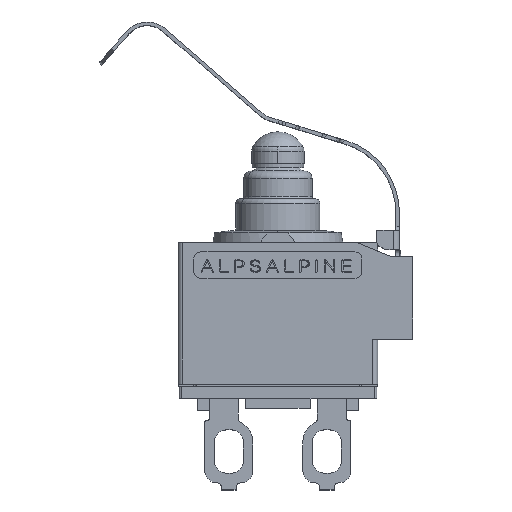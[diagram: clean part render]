
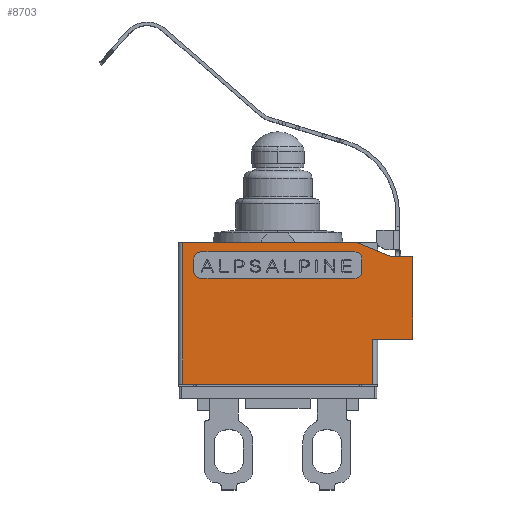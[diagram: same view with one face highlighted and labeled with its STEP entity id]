
A CAD part, top view. The second image highlights one B-rep face of the part: STEP entity #8703.
In plain terms, the highlighted planar face has unit normal (0, 0, 1).
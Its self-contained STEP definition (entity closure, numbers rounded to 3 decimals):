
#114 = EDGE_CURVE ( 'NONE', #20779, #18169, #19206, .T. ) ;
#753 = DIRECTION ( 'NONE',  ( 0., 0., 1. ) ) ;
#857 = EDGE_CURVE ( 'NONE', #18729, #19294, #24965, .T. ) ;
#1432 = DIRECTION ( 'NONE',  ( 0.927, -0.376, 0. ) ) ;
#1776 = DIRECTION ( 'NONE',  ( 0., 0., -1. ) ) ;
#2029 = DIRECTION ( 'NONE',  ( -1., 0., 0. ) ) ;
#2039 = CARTESIAN_POINT ( 'NONE',  ( 3.712, 1.975, 2.65 ) ) ;
#2324 = CIRCLE ( 'NONE', #15535, 0.3 ) ;
#2609 = VECTOR ( 'NONE', #10752, 1000. ) ;
#2673 = VECTOR ( 'NONE', #24500, 1000. ) ;
#2869 = CARTESIAN_POINT ( 'NONE',  ( -5.108, 4.5, 2.65 ) ) ;
#2929 = CARTESIAN_POINT ( 'NONE',  ( 1.592, 5.3, 2.65 ) ) ;
#3407 = AXIS2_PLACEMENT_3D ( 'NONE', #8869, #753, #18466 ) ;
#3445 = EDGE_CURVE ( 'NONE', #19294, #13709, #20224, .T. ) ;
#3448 = VECTOR ( 'NONE', #24776, 1000. ) ;
#4122 = ORIENTED_EDGE ( 'NONE', *, *, #4655, .F. ) ;
#4179 = DIRECTION ( 'NONE',  ( -1., 0., 0. ) ) ;
#4194 = CARTESIAN_POINT ( 'NONE',  ( -6.133, 5.4, 2.65 ) ) ;
#4554 = CARTESIAN_POINT ( 'NONE',  ( 1.292, 5.6, 2.65 ) ) ;
#4655 = EDGE_CURVE ( 'NONE', #8205, #18169, #14508, .T. ) ;
#5278 = EDGE_CURVE ( 'NONE', #8205, #13750, #8075, .T. ) ;
#5336 = CARTESIAN_POINT ( 'NONE',  ( 1.292, 4.8, 2.65 ) ) ;
#5346 = CARTESIAN_POINT ( 'NONE',  ( -5.408, 5.3, 2.65 ) ) ;
#5922 = ORIENTED_EDGE ( 'NONE', *, *, #3445, .T. ) ;
#5979 = VERTEX_POINT ( 'NONE', #12130 ) ;
#6145 = DIRECTION ( 'NONE',  ( 0., 1., 0. ) ) ;
#6272 = ORIENTED_EDGE ( 'NONE', *, *, #10166, .F. ) ;
#6481 = EDGE_CURVE ( 'NONE', #21273, #20779, #15233, .T. ) ;
#6682 = CARTESIAN_POINT ( 'NONE',  ( 3.002, 1.975, 2.65 ) ) ;
#6823 = EDGE_CURVE ( 'NONE', #8384, #23643, #24606, .T. ) ;
#7054 = CIRCLE ( 'NONE', #17427, 0.3 ) ;
#7443 = LINE ( 'NONE', #11200, #9270 ) ;
#7493 = CARTESIAN_POINT ( 'NONE',  ( -5.857, 0.1, 2.65 ) ) ;
#7578 = EDGE_CURVE ( 'NONE', #19035, #22443, #18754, .T. ) ;
#7823 = VECTOR ( 'NONE', #6145, 1000. ) ;
#8075 = LINE ( 'NONE', #9512, #7823 ) ;
#8205 = VERTEX_POINT ( 'NONE', #23157 ) ;
#8280 = CIRCLE ( 'NONE', #3407, 0.3 ) ;
#8281 = EDGE_LOOP ( 'NONE', ( #10950, #10070, #5922, #21100, #14490, #10627, #4122, #21879 ) ) ;
#8384 = VERTEX_POINT ( 'NONE', #4554 ) ;
#8703 = ADVANCED_FACE ( 'NONE', ( #11373, #13855 ), #11694, .F. ) ;
#8869 = CARTESIAN_POINT ( 'NONE',  ( -5.108, 5.3, 2.65 ) ) ;
#9270 = VECTOR ( 'NONE', #1432, 1000. ) ;
#9345 = CARTESIAN_POINT ( 'NONE',  ( -5.858, 5.4, 2.65 ) ) ;
#9512 = CARTESIAN_POINT ( 'NONE',  ( 2.042, 5.4, 2.65 ) ) ;
#9652 = EDGE_CURVE ( 'NONE', #23643, #20200, #8280, .T. ) ;
#10070 = ORIENTED_EDGE ( 'NONE', *, *, #857, .T. ) ;
#10166 = EDGE_CURVE ( 'NONE', #20200, #5979, #23398, .T. ) ;
#10340 = CARTESIAN_POINT ( 'NONE',  ( 3.712, 5.4, 2.65 ) ) ;
#10450 = DIRECTION ( 'NONE',  ( 1., 0., 0. ) ) ;
#10619 = CARTESIAN_POINT ( 'NONE',  ( 1.292, 5.3, 2.65 ) ) ;
#10627 = ORIENTED_EDGE ( 'NONE', *, *, #114, .T. ) ;
#10644 = CARTESIAN_POINT ( 'NONE',  ( -5.108, 4.8, 2.65 ) ) ;
#10752 = DIRECTION ( 'NONE',  ( 0., 1., 0. ) ) ;
#10755 = DIRECTION ( 'NONE',  ( 0., 0., 1. ) ) ;
#10950 = ORIENTED_EDGE ( 'NONE', *, *, #12534, .T. ) ;
#10993 = VERTEX_POINT ( 'NONE', #12376 ) ;
#11111 = DIRECTION ( 'NONE',  ( 0., 0., 1. ) ) ;
#11200 = CARTESIAN_POINT ( 'NONE',  ( 1.342, 6., 2.65 ) ) ;
#11247 = CARTESIAN_POINT ( 'NONE',  ( -5.858, 6., 2.65 ) ) ;
#11373 = FACE_BOUND ( 'NONE', #24280, .T. ) ;
#11694 = PLANE ( 'NONE',  #23192 ) ;
#11870 = CARTESIAN_POINT ( 'NONE',  ( 3.712, 5.4, 2.65 ) ) ;
#12130 = CARTESIAN_POINT ( 'NONE',  ( -5.408, 4.8, 2.65 ) ) ;
#12376 = CARTESIAN_POINT ( 'NONE',  ( -5.108, 4.5, 2.65 ) ) ;
#12534 = EDGE_CURVE ( 'NONE', #13750, #18729, #14733, .T. ) ;
#12632 = EDGE_CURVE ( 'NONE', #21273, #13709, #7443, .T. ) ;
#13011 = VERTEX_POINT ( 'NONE', #19986 ) ;
#13340 = DIRECTION ( 'NONE',  ( 1., 0., 0. ) ) ;
#13357 = ORIENTED_EDGE ( 'NONE', *, *, #23210, .F. ) ;
#13709 = VERTEX_POINT ( 'NONE', #21739 ) ;
#13750 = VERTEX_POINT ( 'NONE', #15820 ) ;
#13855 = FACE_OUTER_BOUND ( 'NONE', #8281, .T. ) ;
#14045 = ORIENTED_EDGE ( 'NONE', *, *, #24598, .F. ) ;
#14331 = EDGE_CURVE ( 'NONE', #22443, #8384, #2324, .T. ) ;
#14490 = ORIENTED_EDGE ( 'NONE', *, *, #6481, .T. ) ;
#14508 = LINE ( 'NONE', #21868, #24322 ) ;
#14573 = EDGE_CURVE ( 'NONE', #13011, #19035, #16780, .T. ) ;
#14733 = LINE ( 'NONE', #6682, #24921 ) ;
#15224 = CARTESIAN_POINT ( 'NONE',  ( 1.342, 6., 2.65 ) ) ;
#15233 = LINE ( 'NONE', #24633, #2673 ) ;
#15535 = AXIS2_PLACEMENT_3D ( 'NONE', #10619, #10755, #18681 ) ;
#15820 = CARTESIAN_POINT ( 'NONE',  ( 2.042, 1.975, 2.65 ) ) ;
#16200 = DIRECTION ( 'NONE',  ( -1., 0., 0. ) ) ;
#16269 = ORIENTED_EDGE ( 'NONE', *, *, #9652, .F. ) ;
#16639 = DIRECTION ( 'NONE',  ( 0., 0., 1. ) ) ;
#16780 = CIRCLE ( 'NONE', #21321, 0.3 ) ;
#16788 = DIRECTION ( 'NONE',  ( 1., 0., 0. ) ) ;
#17005 = CARTESIAN_POINT ( 'NONE',  ( 3.712, 5.4, 2.65 ) ) ;
#17026 = CARTESIAN_POINT ( 'NONE',  ( 1.292, 5.6, 2.65 ) ) ;
#17280 = ORIENTED_EDGE ( 'NONE', *, *, #14331, .F. ) ;
#17427 = AXIS2_PLACEMENT_3D ( 'NONE', #10644, #16639, #18577 ) ;
#18169 = VERTEX_POINT ( 'NONE', #7493 ) ;
#18466 = DIRECTION ( 'NONE',  ( 1., 0., 0. ) ) ;
#18577 = DIRECTION ( 'NONE',  ( 1., 0., 0. ) ) ;
#18681 = DIRECTION ( 'NONE',  ( 1., 0., 0. ) ) ;
#18729 = VERTEX_POINT ( 'NONE', #2039 ) ;
#18754 = LINE ( 'NONE', #24647, #3448 ) ;
#19035 = VERTEX_POINT ( 'NONE', #23875 ) ;
#19206 = LINE ( 'NONE', #9345, #21158 ) ;
#19294 = VERTEX_POINT ( 'NONE', #11870 ) ;
#19324 = DIRECTION ( 'NONE',  ( 0., -1., 0. ) ) ;
#19461 = VECTOR ( 'NONE', #21112, 1000. ) ;
#19986 = CARTESIAN_POINT ( 'NONE',  ( 1.292, 4.5, 2.65 ) ) ;
#20200 = VERTEX_POINT ( 'NONE', #22029 ) ;
#20224 = LINE ( 'NONE', #10340, #22736 ) ;
#20422 = ORIENTED_EDGE ( 'NONE', *, *, #7578, .F. ) ;
#20580 = LINE ( 'NONE', #2869, #21153 ) ;
#20779 = VERTEX_POINT ( 'NONE', #11247 ) ;
#21100 = ORIENTED_EDGE ( 'NONE', *, *, #12632, .F. ) ;
#21112 = DIRECTION ( 'NONE',  ( 0., -1., 0. ) ) ;
#21153 = VECTOR ( 'NONE', #10450, 1000. ) ;
#21158 = VECTOR ( 'NONE', #19324, 1000. ) ;
#21273 = VERTEX_POINT ( 'NONE', #15224 ) ;
#21321 = AXIS2_PLACEMENT_3D ( 'NONE', #5336, #11111, #13340 ) ;
#21739 = CARTESIAN_POINT ( 'NONE',  ( 2.822, 5.4, 2.65 ) ) ;
#21868 = CARTESIAN_POINT ( 'NONE',  ( -6.193, 0.1, 2.65 ) ) ;
#21879 = ORIENTED_EDGE ( 'NONE', *, *, #5278, .T. ) ;
#22029 = CARTESIAN_POINT ( 'NONE',  ( -5.408, 5.3, 2.65 ) ) ;
#22443 = VERTEX_POINT ( 'NONE', #2929 ) ;
#22573 = DIRECTION ( 'NONE',  ( -1., 0., 0. ) ) ;
#22615 = CARTESIAN_POINT ( 'NONE',  ( -5.108, 5.6, 2.65 ) ) ;
#22736 = VECTOR ( 'NONE', #16200, 1000. ) ;
#23157 = CARTESIAN_POINT ( 'NONE',  ( 2.042, 0.1, 2.65 ) ) ;
#23192 = AXIS2_PLACEMENT_3D ( 'NONE', #4194, #1776, #2029 ) ;
#23210 = EDGE_CURVE ( 'NONE', #5979, #10993, #7054, .T. ) ;
#23398 = LINE ( 'NONE', #5346, #19461 ) ;
#23643 = VERTEX_POINT ( 'NONE', #22615 ) ;
#23699 = ORIENTED_EDGE ( 'NONE', *, *, #6823, .F. ) ;
#23708 = VECTOR ( 'NONE', #22573, 1000. ) ;
#23875 = CARTESIAN_POINT ( 'NONE',  ( 1.592, 4.8, 2.65 ) ) ;
#24280 = EDGE_LOOP ( 'NONE', ( #23699, #17280, #20422, #24829, #14045, #13357, #6272, #16269 ) ) ;
#24322 = VECTOR ( 'NONE', #4179, 1000. ) ;
#24500 = DIRECTION ( 'NONE',  ( -1., 0., 0. ) ) ;
#24598 = EDGE_CURVE ( 'NONE', #10993, #13011, #20580, .T. ) ;
#24606 = LINE ( 'NONE', #17026, #23708 ) ;
#24633 = CARTESIAN_POINT ( 'NONE',  ( -6.133, 6., 2.65 ) ) ;
#24647 = CARTESIAN_POINT ( 'NONE',  ( 1.592, 4.8, 2.65 ) ) ;
#24776 = DIRECTION ( 'NONE',  ( 0., 1., 0. ) ) ;
#24829 = ORIENTED_EDGE ( 'NONE', *, *, #14573, .F. ) ;
#24921 = VECTOR ( 'NONE', #16788, 1000. ) ;
#24965 = LINE ( 'NONE', #17005, #2609 ) ;
